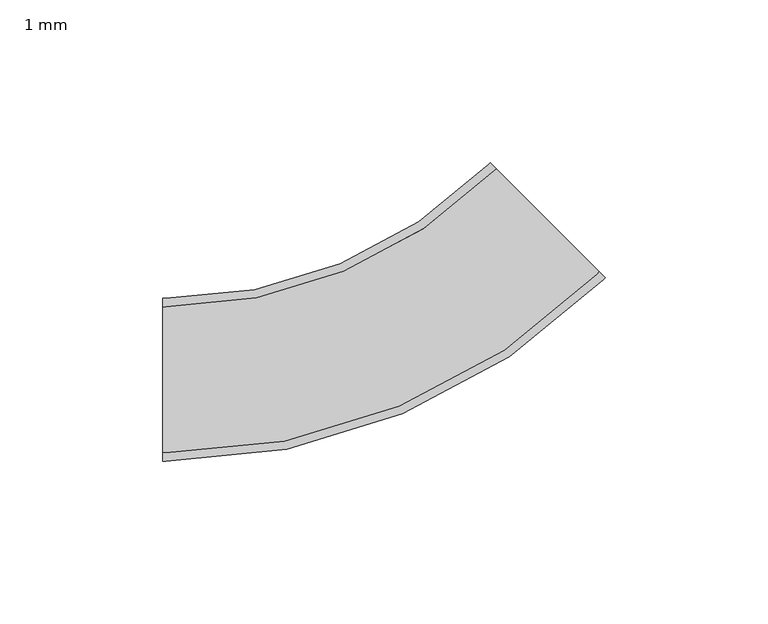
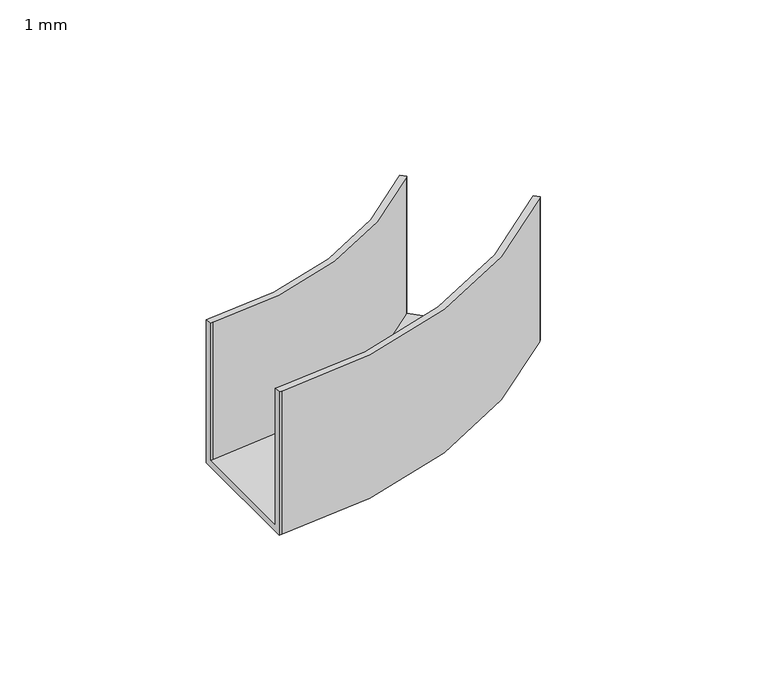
"""IFC4 building model written with IfcOpenShell, lengths in millimetres: cable carrier fitting geometry, BAKS_Kolano_koryta E90 (R140) : 1 mm."""

from ifc_helpers import new_model, si_unit, frame, origin, place, context, project, spatial, polyline, circle_curve, source, transform, mapped, element, save
from ifc_brep_helpers import plane_surface, cylinder_surface, revolved_surface, advanced_brep


def cable_carrier_fitting_1_mm_ec8e8cbd(model_context):
    return source(origin(), model_context, "Body", "AdvancedBrep", [
        advanced_brep(
        [(-69.3452378, -25.0, -30.0), (-69.3452378, -25.0, 30.0), (-69.3452378, -22.46, 30.0), (-69.3452378, -22.46, -27.46), (-69.3452378, 22.46, -27.46), (-69.3452378, 22.46, 30.0), (-69.3452378, 25.0, 30.0), (-69.3452378, 25.0, -30.0), (66.7121574, 31.3568184, -30.0), (31.3568184, 66.7121574, -30.0), (31.3568184, 66.7121574, 30.0), (33.1528696, 64.9161062, 30.0), (33.1528696, 64.9161062, -27.46), (64.9161062, 33.1528696, -27.46), (64.9161062, 33.1528696, 30.0), (66.7121574, 31.3568184, 30.0), (-68.3452378, -25.0, -30.0), (-68.3452378, -25.0, 30.0), (66.0050506, 30.6497116, 30.0), (64.2089994, 32.4457628, 30.0), (-68.3452378, -22.46, 30.0), (-68.3452378, -22.46, -27.46), (64.2089994, 32.4457628, -27.46), (32.4457628, 64.2089994, -27.46), (-68.3452378, 22.46, -27.46), (-68.3452378, 22.46, 30.0), (32.4457628, 64.2089994, 30.0), (30.6497116, 66.0050506, 30.0), (-68.3452378, 25.0, 30.0), (-68.3452378, 25.0, -30.0), (30.6497116, 66.0050506, -30.0), (66.0050506, 30.6497116, -30.0)],
        [
            (0, 1),
            (1, 2),
            (2, 3),
            (3, 4),
            (4, 5),
            (5, 6),
            (6, 7),
            (7, 0),
            (8, 9),
            (9, 10),
            (10, 11),
            (11, 12),
            (12, 13),
            (13, 14),
            (14, 15),
            (15, 8),
            (0, 16),
            (16, 17),
            (17, 1),
            (17, 18, circle_curve(frame((-68.3452378, 165.0, 30.0), z_axis=(0.0, 0.0, 1.0), x_axis=(0.0, -1.0, 0.0)), 190.0)),
            (18, 15),
            (14, 19),
            (19, 20, circle_curve(frame((-68.3452378, 165.0, 30.0), z_axis=(0.0, 0.0, -1.0), x_axis=(0.0, -1.0, 0.0)), 187.46)),
            (20, 2),
            (20, 21),
            (21, 3),
            (21, 22, circle_curve(frame((-68.3452378, 165.0, -27.46), z_axis=(0.0, 0.0, 1.0), x_axis=(0.0, -1.0, 0.0)), 187.46)),
            (22, 13),
            (12, 23),
            (23, 24, circle_curve(frame((-68.3452378, 165.0, -27.46), z_axis=(0.0, 0.0, -1.0), x_axis=(0.0, -1.0, 0.0)), 142.54)),
            (24, 4),
            (24, 25),
            (25, 5),
            (25, 26, circle_curve(frame((-68.3452378, 165.0, 30.0), z_axis=(0.0, 0.0, 1.0), x_axis=(0.0, -1.0, 0.0)), 142.54)),
            (26, 11),
            (10, 27),
            (27, 28, circle_curve(frame((-68.3452378, 165.0, 30.0), z_axis=(0.0, 0.0, -1.0), x_axis=(0.0, -1.0, 0.0)), 140.0)),
            (28, 6),
            (28, 29),
            (29, 7),
            (29, 30, circle_curve(frame((-68.3452378, 165.0, -30.0), z_axis=(0.0, 0.0, 1.0), x_axis=(0.0, -1.0, 0.0)), 140.0)),
            (30, 9),
            (8, 31),
            (31, 16, circle_curve(frame((-68.3452378, 165.0, -30.0), z_axis=(0.0, 0.0, -1.0), x_axis=(0.0, -1.0, 0.0)), 190.0)),
            (31, 18),
            (19, 22),
            (23, 26),
            (27, 30),
        ],
        [
            plane_surface(frame((-69.3452378, 0.0, 0.0), z_axis=(-1.0, -4.906741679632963e-12, 0.0), x_axis=(0.0, 0.0, 1.0))),
            plane_surface(frame((49.0344879, 49.0344879, 0.0), z_axis=(0.7071067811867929, 0.7071067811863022, 0.0), x_axis=(0.0, 0.0, 1.0))),
            plane_surface(frame((-69.3452378, -25.0, -30.0), z_axis=(4.910971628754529e-12, -1.0, 0.0), x_axis=(1.0, 4.910971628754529e-12, 0.0))),
            plane_surface(frame((-69.3452378, -25.0, 30.0), z_axis=(0.0, 0.0, 1.0), x_axis=(1.0, 4.910971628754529e-12, 0.0))),
            plane_surface(frame((-69.3452378, -22.46, 30.0), z_axis=(-4.906741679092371e-12, 1.0, 0.0), x_axis=(1.0, 4.906741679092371e-12, 0.0))),
            plane_surface(frame((-69.3452378, -22.46, -27.46), z_axis=(0.0, 0.0, 1.0), x_axis=(1.0, 4.902511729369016e-12, 0.0))),
            plane_surface(frame((-69.3452378, 22.46, -27.46), z_axis=(4.9067416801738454e-12, -1.0, 0.0), x_axis=(1.0, 4.9067416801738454e-12, 0.0))),
            plane_surface(frame((-69.3452378, 22.46, 30.0), z_axis=(0.0, 0.0, 1.0), x_axis=(1.0, 4.9067416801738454e-12, 0.0))),
            plane_surface(frame((-69.3452378, 25.0, 30.0), z_axis=(-4.9067416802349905e-12, 1.0, 0.0), x_axis=(1.0, 4.9067416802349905e-12, 0.0))),
            plane_surface(frame((-69.3452378, 25.0, -30.0), z_axis=(0.0, 0.0, -1.0), x_axis=(1.0, 4.9067416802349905e-12, 0.0))),
            cylinder_surface(frame((-68.3452378, 165.0, 0.0), z_axis=(0.0, 0.0, 1.0), x_axis=(0.0, -1.0, 0.0)), 190.0),
            revolved_surface(polyline([(-68.3452378, -22.460000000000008, 30.0), (-68.3452378, -22.460000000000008, -27.46)]), (-68.3452378, 165.0, 0.0), (0.0, 0.0, 1.0)),
            cylinder_surface(frame((-68.3452378, 165.0, 0.0), z_axis=(0.0, 0.0, 1.0), x_axis=(0.0, -1.0, 0.0)), 142.54),
            revolved_surface(polyline([(-68.3452378, 25.0, 30.0), (-68.3452378, 25.0, -30.0)]), (-68.3452378, 165.0, 0.0), (0.0, 0.0, 1.0)),
            plane_surface(frame((66.0050506, 30.6497116, -30.0), z_axis=(0.7071067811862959, -0.7071067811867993, 0.0), x_axis=(0.7071067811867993, 0.7071067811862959, 0.0))),
            plane_surface(frame((64.2089994, 32.4457628, 30.0), z_axis=(-0.7071067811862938, 0.7071067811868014, 0.0), x_axis=(0.7071067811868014, 0.7071067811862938, 0.0))),
            plane_surface(frame((32.4457628, 64.2089994, -27.46), z_axis=(0.7071067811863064, -0.7071067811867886, 0.0), x_axis=(0.7071067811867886, 0.7071067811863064, 0.0))),
            plane_surface(frame((30.6497116, 66.0050506, 30.0), z_axis=(-0.7071067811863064, 0.7071067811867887, 0.0), x_axis=(0.7071067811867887, 0.7071067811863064, 0.0))),
        ],
        [
            (0, [[1, 2, 3, 4, 5, 6, 7, 8]]),
            (1, [[9, 10, 11, 12, 13, 14, 15, 16]]),
            (2, [[-1, 17, 18, 19]]),
            (3, [[-2, -19, 20, 21, -15, 22, 23, 24]]),
            (4, [[-3, -24, 25, 26]]),
            (5, [[-4, -26, 27, 28, -13, 29, 30, 31]]),
            (6, [[-5, -31, 32, 33]]),
            (7, [[-6, -33, 34, 35, -11, 36, 37, 38]]),
            (8, [[-7, -38, 39, 40]]),
            (9, [[-8, -40, 41, 42, -9, 43, 44, -17]]),
            (10, [[-20, -18, -44, 45]]),
            (11, [[-27, -25, -23, 46]]),
            (12, [[-34, -32, -30, 47]]),
            (13, [[-41, -39, -37, 48]]),
            (14, [[-45, -43, -16, -21]]),
            (15, [[-46, -22, -14, -28]]),
            (16, [[-47, -29, -12, -35]]),
            (17, [[-48, -36, -10, -42]]),
        ],
    ),
    ])


if __name__ == "__main__":
    model = new_model("IFC4")
    model_context = context("Model", 3, world=origin())
    ifc_project = project(units=[si_unit("LENGTHUNIT", "METRE", prefix="MILLI")], contexts=[model_context])
    site = spatial("IfcSite", under=ifc_project)
    building = spatial("IfcBuilding", under=site)
    placement = place(None, origin())
    cable_carrier_fitting_1_mm_shape = cable_carrier_fitting_1_mm_ec8e8cbd(model_context)
    element("IfcCableCarrierFitting", 1, ObjectType="BAKS_Kolano_koryta E90 (R140) : 1 mm", at=placement, inside=building, context=model_context, shape_type="MappedRepresentation", body=[
        mapped(cable_carrier_fitting_1_mm_shape, transform((0.0, 0.0, 0.0), x_axis=(1.0, 0.0, 0.0), y_axis=(0.0, 1.0, 0.0), z_axis=(0.0, 0.0, 1.0))),
    ])
    save(model, "model.ifc")
